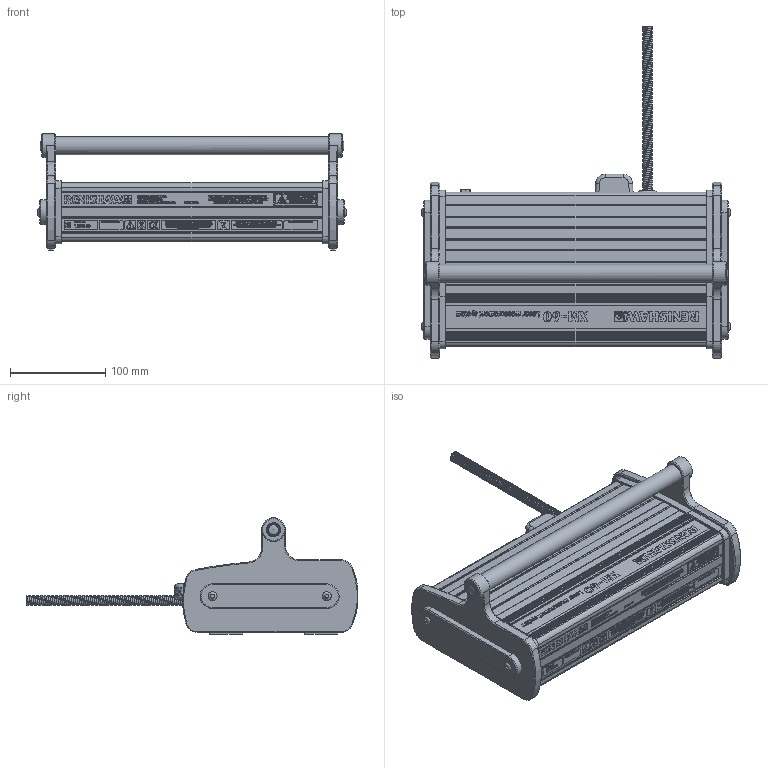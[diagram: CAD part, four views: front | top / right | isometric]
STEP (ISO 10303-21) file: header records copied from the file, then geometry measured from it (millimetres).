
FILE_DESCRIPTION(/* description */ (''),/* implementation_level */ '2;1');
FILE_NAME(/* name */ 'LA-5103-3036-A XM60 LASER ASSY.stp',/* time_stamp */ '2020-01-16T10:48:07+00:00',/* author */ (''),/* organization */ (''),/* preprocessor_version */ 'ST-DEVELOPER v16.7',/* originating_system */ 'SIEMENS PLM Software NX 12.0',/* authorisation */ '');
FILE_SCHEMA (('AUTOMOTIVE_DESIGN { 1 0 10303 214 3 1 1 1 }'));
Products named in the file (1): LA-5103-3036-A_XM60 LASER ASSY
Bounding box: 324.1 x 348.74 x 122.25 mm (x, y, z)
Volume: 2855880.4 mm3; surface area: 390009.1 mm2
Topology: 1 solids, 15 shells, 2746 faces, 11883 edges, 10323 vertices
Faces by surface type: plane 1917, cylinder 599, cone 119, bspline 66, torus 20, sphere 20, extrusion 3, revolution 2
Full cylindrical faces by diameter (mm): 1.886 x2, 2 x1, 2.2 x2, 2.5 x1, 2.54 x4, 2.9 x6, 3.5 x3, 3.8 x1, 4.1 x2, 4.2 x4, 4.3 x12, 4.5 x1, 4.826 x4, 5 x7, 5.3 x1, 5.5 x10, 6.4 x1, 7 x8, 8 x3, 8.5 x1, 10.4 x2, 11.2 x1, 12.4 x2, 13.05 x1, 13.1 x2, 14.7 x2, 14.8 x2, 18.8 x1, 19.05 x1, 19.5 x1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
Entity records: 155386 total; most frequent: CARTESIAN_POINT 60576, ORIENTED_EDGE 23240, EDGE_CURVE 11620, DIRECTION 10535, VERTEX_POINT 10228, B_SPLINE_CURVE_WITH_KNOTS 7867, EDGE_LOOP 4132, AXIS2_PLACEMENT_3D 4100
